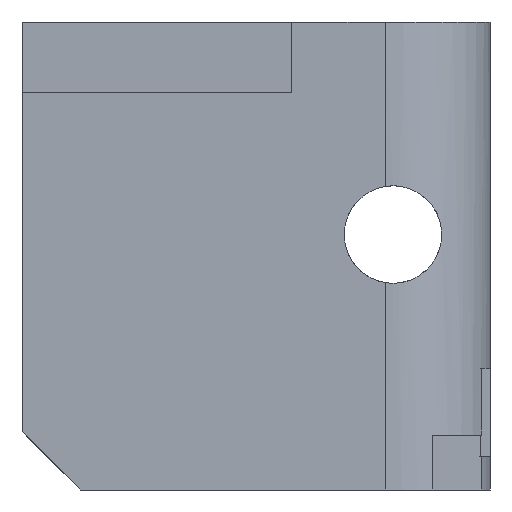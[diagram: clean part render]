
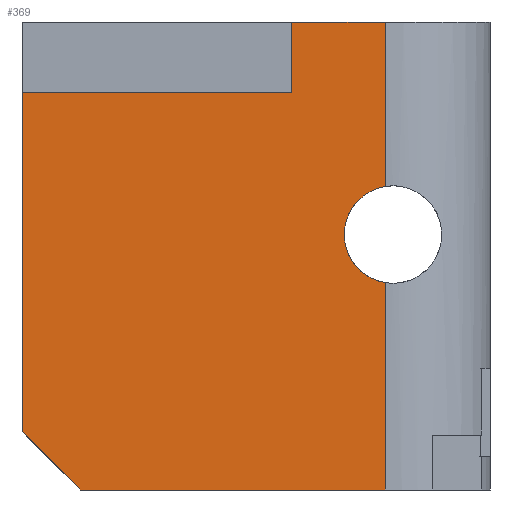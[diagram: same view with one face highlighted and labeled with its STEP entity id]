
A CAD part, left-side view. The second image highlights one B-rep face of the part: STEP entity #369.
In plain terms, the highlighted planar face has unit normal (-1, 0, 0).
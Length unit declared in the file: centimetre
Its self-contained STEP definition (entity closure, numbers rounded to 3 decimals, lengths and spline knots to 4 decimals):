
#19 = LINE ( 'NONE', #962, #347 ) ;
#32 = DIRECTION ( 'NONE',  ( 0., 0., 1. ) ) ;
#65 = CARTESIAN_POINT ( 'NONE',  ( 0., 1000., 849.3021 ) ) ;
#73 = EDGE_CURVE ( 'NONE', #811, #764, #484, .T. ) ;
#116 = CARTESIAN_POINT ( 'NONE',  ( 0., 223.4874, 648.6697 ) ) ;
#135 = LINE ( 'NONE', #1187, #1232 ) ;
#142 = CARTESIAN_POINT ( 'NONE',  ( 0., 1000., 1000. ) ) ;
#159 = CARTESIAN_POINT ( 'NONE',  ( 0., 424.3419, 1000. ) ) ;
#173 = CARTESIAN_POINT ( 'NONE',  ( 0., 424.3419, 849.3021 ) ) ;
#185 = VERTEX_POINT ( 'NONE', #159 ) ;
#190 = ORIENTED_EDGE ( 'NONE', *, *, #822, .T. ) ;
#191 = EDGE_CURVE ( 'NONE', #479, #185, #1209, .T. ) ;
#215 = CARTESIAN_POINT ( 'NONE',  ( 0., 1000., 124.2099 ) ) ;
#223 = EDGE_CURVE ( 'NONE', #235, #557, #535, .T. ) ;
#235 = VERTEX_POINT ( 'NONE', #65 ) ;
#236 = ORIENTED_EDGE ( 'NONE', *, *, #415, .T. ) ;
#274 = CARTESIAN_POINT ( 'NONE',  ( 0., 424.3419, 849.3021 ) ) ;
#304 = ORIENTED_EDGE ( 'NONE', *, *, #885, .F. ) ;
#308 = LINE ( 'NONE', #215, #682 ) ;
#314 = ORIENTED_EDGE ( 'NONE', *, *, #697, .T. ) ;
#347 = VECTOR ( 'NONE', #1173, 100. ) ;
#348 = CARTESIAN_POINT ( 'NONE',  ( 0., 223.4874, 1000. ) ) ;
#360 = ORIENTED_EDGE ( 'NONE', *, *, #73, .F. ) ;
#363 = LINE ( 'NONE', #274, #562 ) ;
#369 = ADVANCED_FACE ( 'NONE', ( #933 ), #845, .F. ) ;
#389 = CARTESIAN_POINT ( 'NONE',  ( 0., 875.7901, 0. ) ) ;
#415 = EDGE_CURVE ( 'NONE', #479, #235, #363, .T. ) ;
#421 = DIRECTION ( 'NONE',  ( 0., 0., 1. ) ) ;
#479 = VERTEX_POINT ( 'NONE', #173 ) ;
#484 = CIRCLE ( 'NONE', #541, 104.1226 ) ;
#485 = AXIS2_PLACEMENT_3D ( 'NONE', #762, #1041, #1049 ) ;
#510 = LINE ( 'NONE', #533, #967 ) ;
#526 = ORIENTED_EDGE ( 'NONE', *, *, #223, .T. ) ;
#533 = CARTESIAN_POINT ( 'NONE',  ( 0., 223.4874, 1000. ) ) ;
#535 = LINE ( 'NONE', #142, #657 ) ;
#541 = AXIS2_PLACEMENT_3D ( 'NONE', #793, #1064, #1166 ) ;
#547 = CARTESIAN_POINT ( 'NONE',  ( 0., 223.4874, 0. ) ) ;
#557 = VERTEX_POINT ( 'NONE', #874 ) ;
#562 = VECTOR ( 'NONE', #649, 100. ) ;
#592 = DIRECTION ( 'NONE',  ( 0., -0.707, -0.707 ) ) ;
#614 = CARTESIAN_POINT ( 'NONE',  ( 0., 424.3419, 849.3021 ) ) ;
#633 = LINE ( 'NONE', #348, #879 ) ;
#649 = DIRECTION ( 'NONE',  ( 0., 1., 0. ) ) ;
#657 = VECTOR ( 'NONE', #995, 100. ) ;
#674 = ORIENTED_EDGE ( 'NONE', *, *, #1201, .T. ) ;
#682 = VECTOR ( 'NONE', #592, 100. ) ;
#686 = ORIENTED_EDGE ( 'NONE', *, *, #741, .T. ) ;
#697 = EDGE_CURVE ( 'NONE', #1047, #761, #19, .T. ) ;
#701 = VECTOR ( 'NONE', #421, 100. ) ;
#741 = EDGE_CURVE ( 'NONE', #557, #1047, #308, .T. ) ;
#761 = VERTEX_POINT ( 'NONE', #547 ) ;
#762 = CARTESIAN_POINT ( 'NONE',  ( 0., 1000., 1000. ) ) ;
#764 = VERTEX_POINT ( 'NONE', #1216 ) ;
#793 = CARTESIAN_POINT ( 'NONE',  ( 0., 207.2991, 545.8133 ) ) ;
#811 = VERTEX_POINT ( 'NONE', #116 ) ;
#822 = EDGE_CURVE ( 'NONE', #811, #1059, #510, .T. ) ;
#844 = EDGE_LOOP ( 'NONE', ( #674, #360, #190, #304, #948, #236, #526, #686, #314 ) ) ;
#845 = PLANE ( 'NONE',  #485 ) ;
#874 = CARTESIAN_POINT ( 'NONE',  ( 0., 1000., 124.2099 ) ) ;
#879 = VECTOR ( 'NONE', #1004, 100. ) ;
#885 = EDGE_CURVE ( 'NONE', #185, #1059, #135, .T. ) ;
#933 = FACE_OUTER_BOUND ( 'NONE', #844, .T. ) ;
#948 = ORIENTED_EDGE ( 'NONE', *, *, #191, .F. ) ;
#962 = CARTESIAN_POINT ( 'NONE',  ( 0., 1000., 0. ) ) ;
#967 = VECTOR ( 'NONE', #32, 100. ) ;
#995 = DIRECTION ( 'NONE',  ( 0., 0., -1. ) ) ;
#1004 = DIRECTION ( 'NONE',  ( 0., 0., 1. ) ) ;
#1006 = DIRECTION ( 'NONE',  ( 0., -1., 0. ) ) ;
#1041 = DIRECTION ( 'NONE',  ( 1., 0., 0. ) ) ;
#1047 = VERTEX_POINT ( 'NONE', #389 ) ;
#1049 = DIRECTION ( 'NONE',  ( 0., 0., -1. ) ) ;
#1059 = VERTEX_POINT ( 'NONE', #1090 ) ;
#1064 = DIRECTION ( 'NONE',  ( -1., 0., 0. ) ) ;
#1090 = CARTESIAN_POINT ( 'NONE',  ( 0., 223.4874, 1000. ) ) ;
#1166 = DIRECTION ( 'NONE',  ( 0., 0., 1. ) ) ;
#1173 = DIRECTION ( 'NONE',  ( 0., -1., 0. ) ) ;
#1187 = CARTESIAN_POINT ( 'NONE',  ( 0., 1000., 1000. ) ) ;
#1201 = EDGE_CURVE ( 'NONE', #761, #764, #633, .T. ) ;
#1209 = LINE ( 'NONE', #614, #701 ) ;
#1216 = CARTESIAN_POINT ( 'NONE',  ( 0., 223.4874, 442.9568 ) ) ;
#1232 = VECTOR ( 'NONE', #1006, 100. ) ;
